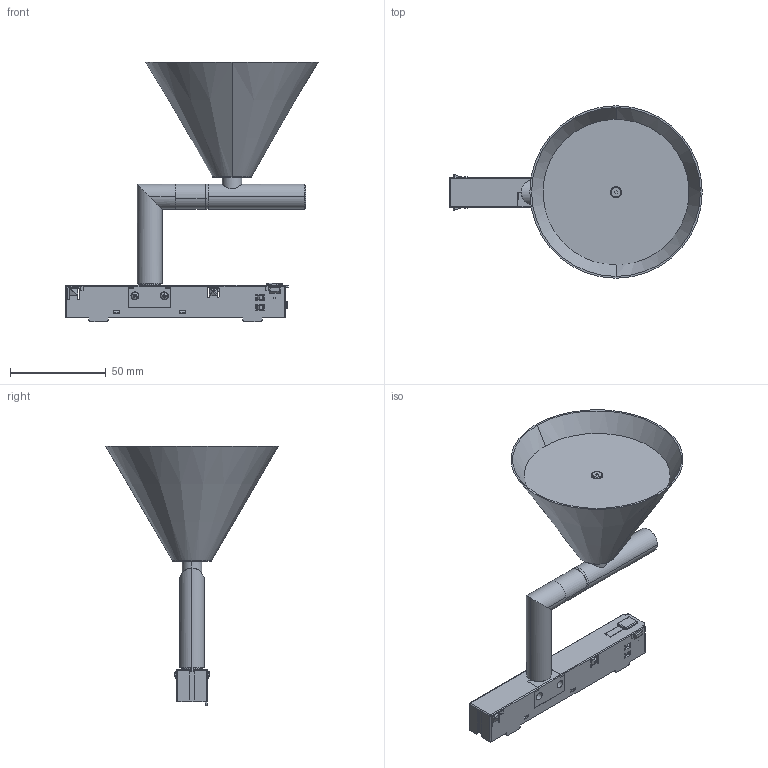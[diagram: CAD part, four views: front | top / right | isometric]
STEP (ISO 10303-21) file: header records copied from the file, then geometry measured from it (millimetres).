
FILE_DESCRIPTION (( 'STEP AP214' ), '1' );
FILE_NAME ('CONO_tracklight.STEP', '2025-09-19T07:36:11', ( '' ), ( '' ), 'SwSTEP 2.0', 'SolidWorks 2018', '' );
FILE_SCHEMA (( 'AUTOMOTIVE_DESIGN' ));
Length unit declared in the file: millimetre
Products named in the file (1): CONO_tracklight
Bounding box: 131.77 x 90 x 135.35 mm (x, y, z)
Surface area: 82416 mm2 (no closed solid volume)
Topology: 0 solids, 55 shells, 1954 faces, 5238 edges, 3416 vertices
Faces by surface type: plane 1436, cylinder 327, cone 94, bspline 83, torus 14
Entity records: 93667 total; most frequent: CARTESIAN_POINT 25476, ORIENTED_EDGE 10424, DIRECTION 8133, EDGE_CURVE 5220, VERTEX_POINT 3416, LINE 3137, VECTOR 3137, AXIS2_PLACEMENT_3D 2498
